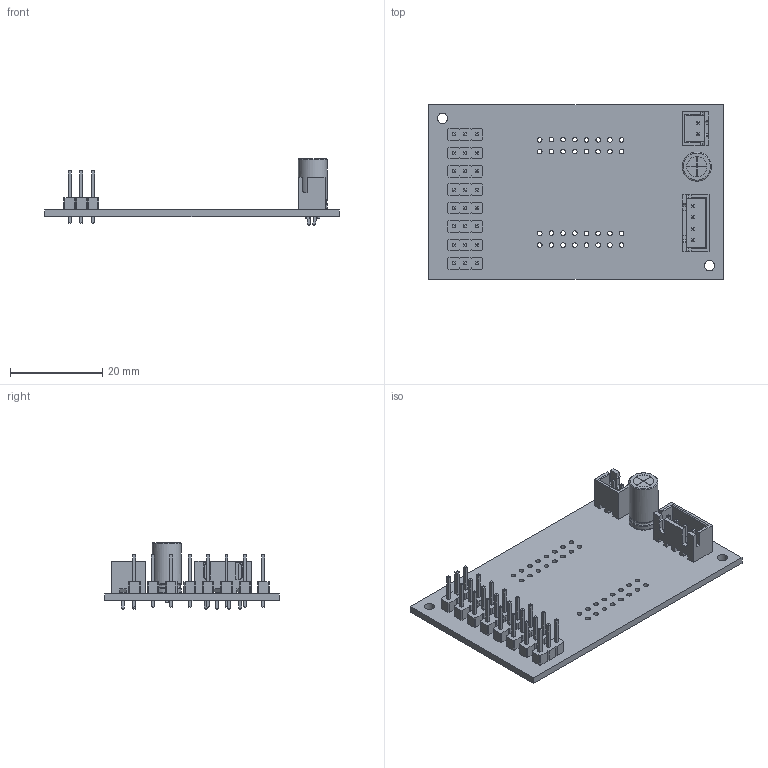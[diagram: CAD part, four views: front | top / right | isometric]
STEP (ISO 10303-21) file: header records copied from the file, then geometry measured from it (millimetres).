
FILE_DESCRIPTION(('KiCad electronic assembly'),'2;1');
FILE_NAME('PCB_sesame.step','2026-03-12T16:19:10',('Pcbnew'),('Kicad'), 'Open CASCADE STEP processor 7.9','KiCad to STEP converter','Unknown' );
FILE_SCHEMA(('AUTOMOTIVE_DESIGN { 1 0 10303 214 1 1 1 1 }'));
Length unit declared in the file: millimetre
Products named in the file (6): PCB_sesame 1; PinHeader_1x03_P2.54mm_Vertical; JST_XH_B4B-XH-A_1x04_P2.50mm_Vertical; C_Radial_D6.3mm_H11.0mm_P2.50mm; JST_XH_B2B-XH-A_1x02_P2.50mm_Vertical; PCB_sesame_PCB
Assembly tree (12 placements, depth 2):
  PCB_sesame 1
    PinHeader_1x03_P2.54mm_Vertical  x8
    JST_XH_B4B-XH-A_1x04_P2.50mm_Vertical
    C_Radial_D6.3mm_H11.0mm_P2.50mm
    JST_XH_B2B-XH-A_1x02_P2.50mm_Vertical
    PCB_sesame_PCB
Bounding box: 64 x 38 x 14.4 mm (x, y, z)
Volume: 4795.5 mm3; surface area: 7997.5 mm2
Topology: 12 solids, 13 shells, 942 faces, 2324 edges, 1472 vertices
Faces by surface type: plane 856, cylinder 81, revolution 2, bspline 2, torus 1
Full cylindrical faces by diameter (mm): 0.6 x2, 0.95 x4, 1 x40, 1.02 x20, 2.2 x2, 4.41 x3, 6.3 x2
Entity records: 15266 total; most frequent: CARTESIAN_POINT 2315, ORIENTED_EDGE 2128, DIRECTION 2077, EDGE_CURVE 1064, LINE 883, VECTOR 883, VERTEX_POINT 688, AXIS2_PLACEMENT_3D 596
